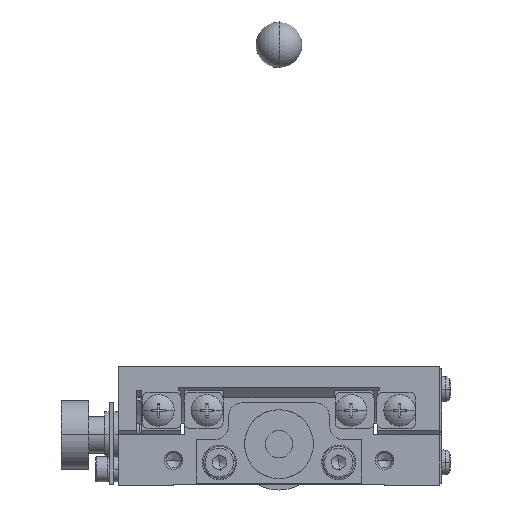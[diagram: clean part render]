
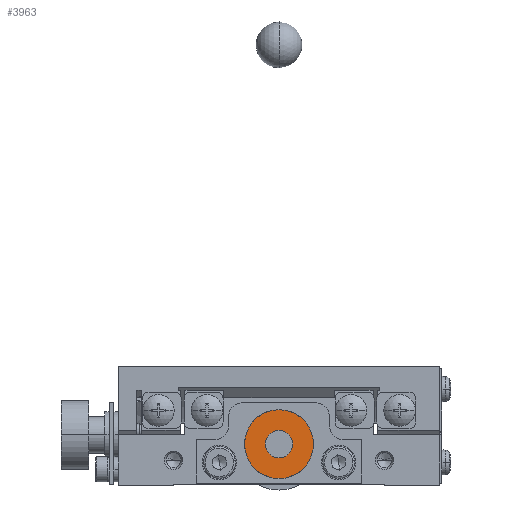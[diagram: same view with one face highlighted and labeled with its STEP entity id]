
A CAD part, left-side view. The second image highlights one B-rep face of the part: STEP entity #3963.
In plain terms, the highlighted planar face has unit normal (-1, 0, 0) as drawn and (0, 1, 0) by its records, which use the part's own axes.
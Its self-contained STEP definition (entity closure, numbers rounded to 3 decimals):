
#2512 = CARTESIAN_POINT ( 'NONE',  ( 7.5, 50., 9. ) ) ;
#2534 = FACE_OUTER_BOUND ( 'NONE', #32881, .T. ) ;
#2537 = FACE_BOUND ( 'NONE', #32889, .T. ) ;
#2539 = PLANE ( 'NONE',  #48199 ) ;
#2542 = DIRECTION ( 'NONE',  ( 0., 1., 0. ) ) ;
#2544 = DIRECTION ( 'NONE',  ( 1., 0., 0. ) ) ;
#3963 = ADVANCED_FACE ( 'NONE', ( #2534, #2537 ), #2539, .T. ) ;
#7625 = EDGE_CURVE ( 'NONE', #39418, #39419, #37786, .T. ) ;
#7636 = EDGE_CURVE ( 'NONE', #39471, #39477, #37818, .T. ) ;
#7954 = EDGE_CURVE ( 'NONE', #39419, #39418, #38481, .T. ) ;
#7986 = EDGE_CURVE ( 'NONE', #39477, #39471, #38550, .T. ) ;
#20351 = ORIENTED_EDGE ( 'NONE', *, *, #7986, .F. ) ;
#20353 = ORIENTED_EDGE ( 'NONE', *, *, #7636, .F. ) ;
#20355 = ORIENTED_EDGE ( 'NONE', *, *, #7625, .F. ) ;
#20356 = ORIENTED_EDGE ( 'NONE', *, *, #7954, .F. ) ;
#27769 = CARTESIAN_POINT ( 'NONE',  ( 0., 50., 9. ) ) ;
#27771 = DIRECTION ( 'NONE',  ( 0., 1., 0. ) ) ;
#27773 = DIRECTION ( 'NONE',  ( 0., 0., 1. ) ) ;
#28078 = CARTESIAN_POINT ( 'NONE',  ( 0., 50., 9. ) ) ;
#28080 = DIRECTION ( 'NONE',  ( 0., -1., 0. ) ) ;
#28082 = DIRECTION ( 'NONE',  ( -1., 0., 0. ) ) ;
#32881 = EDGE_LOOP ( 'NONE', ( #20351, #20353 ) ) ;
#32889 = EDGE_LOOP ( 'NONE', ( #20355, #20356 ) ) ;
#37786 = CIRCLE ( 'NONE', #37797, 3. ) ;
#37797 = AXIS2_PLACEMENT_3D ( 'NONE', #44734, #44735, #44736 ) ;
#37818 = CIRCLE ( 'NONE', #37827, 7.5 ) ;
#37827 = AXIS2_PLACEMENT_3D ( 'NONE', #44823, #44824, #44825 ) ;
#38481 = CIRCLE ( 'NONE', #38485, 3. ) ;
#38485 = AXIS2_PLACEMENT_3D ( 'NONE', #27769, #27771, #27773 ) ;
#38550 = CIRCLE ( 'NONE', #38561, 7.5 ) ;
#38561 = AXIS2_PLACEMENT_3D ( 'NONE', #28078, #28080, #28082 ) ;
#39418 = VERTEX_POINT ( 'NONE', #41851 ) ;
#39419 = VERTEX_POINT ( 'NONE', #41852 ) ;
#39471 = VERTEX_POINT ( 'NONE', #41880 ) ;
#39477 = VERTEX_POINT ( 'NONE', #41883 ) ;
#41851 = CARTESIAN_POINT ( 'NONE',  ( 0., 50., 6. ) ) ;
#41852 = CARTESIAN_POINT ( 'NONE',  ( 0., 50., 12. ) ) ;
#41880 = CARTESIAN_POINT ( 'NONE',  ( 7.5, 50., 9. ) ) ;
#41883 = CARTESIAN_POINT ( 'NONE',  ( -7.5, 50., 9. ) ) ;
#44734 = CARTESIAN_POINT ( 'NONE',  ( 0., 50., 9. ) ) ;
#44735 = DIRECTION ( 'NONE',  ( 0., 1., 0. ) ) ;
#44736 = DIRECTION ( 'NONE',  ( 0., 0., 1. ) ) ;
#44823 = CARTESIAN_POINT ( 'NONE',  ( 0., 50., 9. ) ) ;
#44824 = DIRECTION ( 'NONE',  ( 0., -1., 0. ) ) ;
#44825 = DIRECTION ( 'NONE',  ( -1., 0., 0. ) ) ;
#48199 = AXIS2_PLACEMENT_3D ( 'NONE', #2512, #2542, #2544 ) ;
